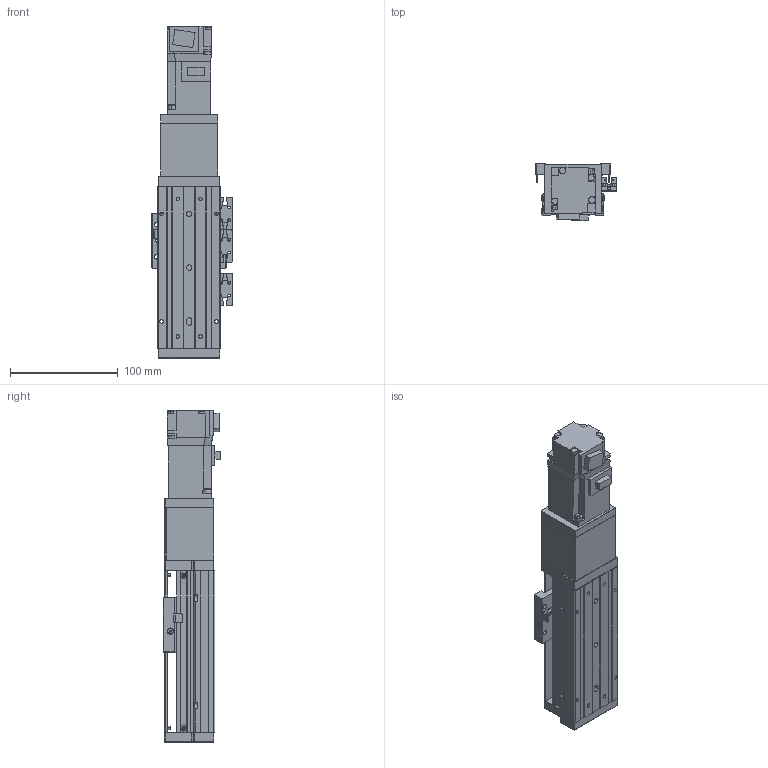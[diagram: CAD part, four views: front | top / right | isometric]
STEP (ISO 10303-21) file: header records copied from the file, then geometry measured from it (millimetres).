
FILE_DESCRIPTION (( 'STEP AP203' ), '1' );
FILE_NAME ('KTHA50-50-BC-M10-C4L.step', '2022-03-19T07:03:32', ( '微软用户' ), ( '微软中国' ), 'SwSTEP 2.0', 'SolidWorks 2020', '' );
FILE_SCHEMA (( 'CONFIG_CONTROL_DESIGN' ));
Length unit declared in the file: millimetre
Products named in the file (18): KTHA50-002; CTHA60-017; CTHA50-013; KTHA50-004; GBT 70.1-M4×12; HG-KR13（三菱）; KTHA50-005; CTHA60-016; KTHA50-50-BC-M10-C4L; GB¨uT 70.2-M3¡Á6_M3¡Á6; CTHA60-021; EE_SX911P_R; GBT 70.3-M3℅6; GBT77-2000 M3×3; CTHA50-027; KTHA50-001_150; GBT 70.1-M3℅6; CTHA50-006-2_CTHA60-006-2
Assembly tree (52 placements, depth 2):
  KTHA50-50-BC-M10-C4L
    KTHA50-001_150
    KTHA50-002
    KTHA50-004
    KTHA50-005
    GB¨uT 70.2-M3¡Á6_M3¡Á6  x6
    EE_SX911P_R  x3
    GBT77-2000 M3×3  x6
    GBT 70.1-M3℅6  x6
    CTHA60-017  x3
    GBT 70.1-M4×12  x10
    CTHA60-016  x2
    CTHA60-021  x2
    GBT 70.3-M3℅6  x6
    CTHA50-027
    CTHA50-006-2_CTHA60-006-2
    CTHA50-013
    HG-KR13（三菱）
Bounding box: 75.22 x 53.3 x 308.6 mm (x, y, z)
Volume: 558401.5 mm3; surface area: 154283.4 mm2
Topology: 55 solids, 55 shells, 2086 faces, 4898 edges, 2992 vertices
Faces by surface type: plane 1184, cylinder 488, cone 310, torus 88, sphere 16
Entity records: 32310 total; most frequent: CARTESIAN_POINT 5242, DIRECTION 5180, ORIENTED_EDGE 4868, EDGE_CURVE 2434, AXIS2_PLACEMENT_3D 1743, VECTOR 1694, LINE 1694, VERTEX_POINT 1525
